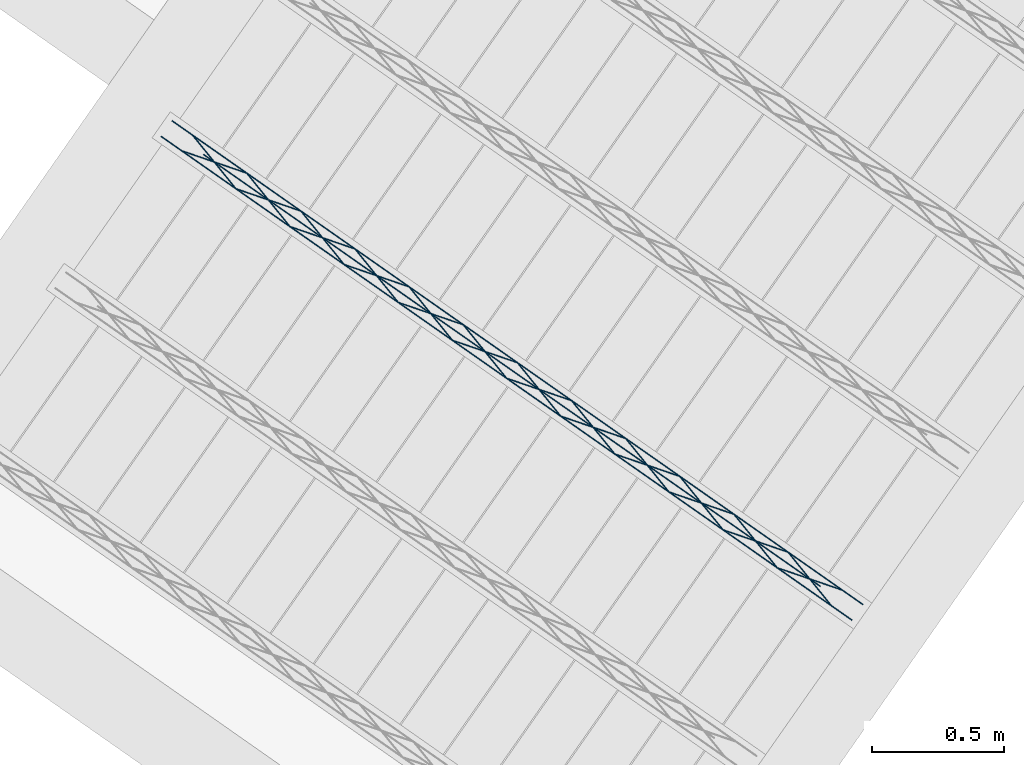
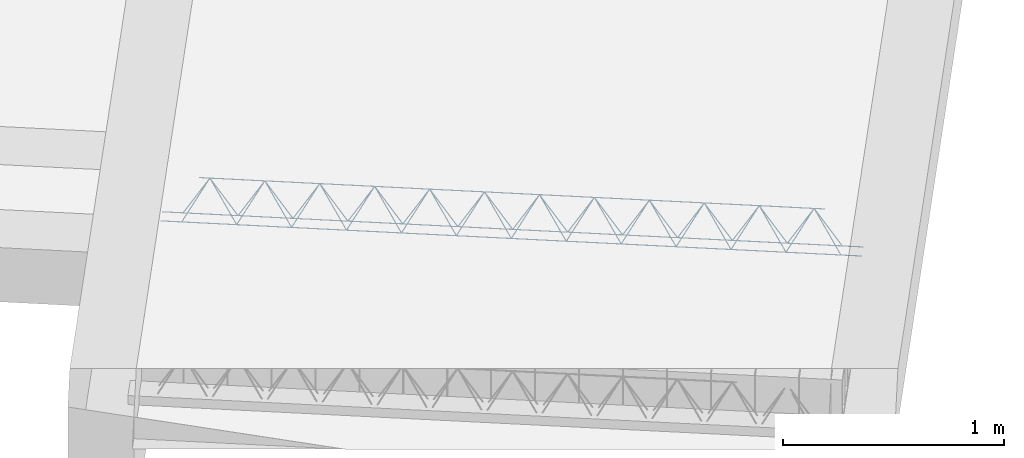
# One storey, part 5 of 46: 1 member.
"""IFC2X3 building model written with IfcOpenShell, lengths in metres."""

from ifc_helpers import new_model, entity, si_unit, converted_unit, derived_unit, direction, frame, origin, origin_2d_with_axis, place, context, subcontext, project, spatial, circle, extrude, type_object, element, save


model = new_model("IFC2X3")

# Units and contexts
model_context = context("Model", 3, precision=1e-05, world=origin(), true_north=direction((6.123031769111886e-17, 1.0)))
body_context = subcontext(model_context, "Body", "Model", "MODEL_VIEW")
ifc_project = project(units=[si_unit("LENGTHUNIT", "METRE"), si_unit("AREAUNIT", "SQUARE_METRE"), si_unit("VOLUMEUNIT", "CUBIC_METRE"), converted_unit("PLANEANGLEUNIT", "DEGREE", entity("IfcPlaneAngleMeasure", 0.017453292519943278), si_unit("PLANEANGLEUNIT", "RADIAN"), dimensions=[0, 0, 0, 0, 0, 0, 0]), si_unit("MASSUNIT", "GRAM", prefix="KILO"), derived_unit("MASSDENSITYUNIT", [(si_unit("MASSUNIT", "GRAM", prefix="KILO"), 1), (si_unit("LENGTHUNIT", "METRE"), -3)]), derived_unit("IONCONCENTRATIONUNIT", [(si_unit("MASSUNIT", "GRAM", prefix="KILO"), 1), (si_unit("LENGTHUNIT", "METRE"), -3)]), derived_unit("MOMENTOFINERTIAUNIT", [(si_unit("LENGTHUNIT", "METRE"), 4)]), si_unit("TIMEUNIT", "SECOND"), si_unit("FREQUENCYUNIT", "HERTZ"), si_unit("THERMODYNAMICTEMPERATUREUNIT", "DEGREE_CELSIUS"), derived_unit("THERMALTRANSMITTANCEUNIT", [(si_unit("MASSUNIT", "GRAM", prefix="KILO"), 1), (si_unit("THERMODYNAMICTEMPERATUREUNIT", "KELVIN"), -1), (si_unit("TIMEUNIT", "SECOND"), -3)]), derived_unit("THERMALCONDUCTANCEUNIT", [(si_unit("MASSUNIT", "GRAM", prefix="KILO"), 1), (si_unit("THERMODYNAMICTEMPERATUREUNIT", "KELVIN"), -1), (si_unit("TIMEUNIT", "SECOND"), -3), (si_unit("LENGTHUNIT", "METRE"), 1)]), derived_unit("VOLUMETRICFLOWRATEUNIT", [(si_unit("LENGTHUNIT", "METRE", prefix="DECI"), 3), (si_unit("TIMEUNIT", "SECOND"), -1)]), derived_unit("MASSFLOWRATEUNIT", [(si_unit("MASSUNIT", "GRAM", prefix="KILO"), 1), (si_unit("TIMEUNIT", "SECOND"), -1)]), derived_unit("ROTATIONALFREQUENCYUNIT", [(si_unit("TIMEUNIT", "SECOND"), -1)]), si_unit("ELECTRICCURRENTUNIT", "AMPERE"), si_unit("ELECTRICVOLTAGEUNIT", "VOLT"), si_unit("POWERUNIT", "WATT"), si_unit("FORCEUNIT", "NEWTON", prefix="KILO"), si_unit("ILLUMINANCEUNIT", "LUX"), si_unit("LUMINOUSFLUXUNIT", "LUMEN"), si_unit("LUMINOUSINTENSITYUNIT", "CANDELA"), si_unit("ENERGYUNIT", "JOULE"), derived_unit("USERDEFINED", [(si_unit("MASSUNIT", "GRAM", prefix="KILO"), -1), (si_unit("LENGTHUNIT", "METRE"), -2), (si_unit("TIMEUNIT", "SECOND"), 3), (si_unit("LUMINOUSFLUXUNIT", "LUMEN"), 1)]), derived_unit("USERDEFINED", [(si_unit("MASSUNIT", "GRAM", prefix="KILO"), 1), (si_unit("TIMEUNIT", "SECOND"), -3), (si_unit("LENGTHUNIT", "METRE"), 3), (si_unit("ELECTRICCURRENTUNIT", "AMPERE"), -2)]), derived_unit("SOUNDPOWERUNIT", [(si_unit("MASSUNIT", "GRAM", prefix="KILO"), 1), (si_unit("TIMEUNIT", "SECOND"), -3), (si_unit("LENGTHUNIT", "METRE"), 2)]), derived_unit("SOUNDPRESSUREUNIT", [(si_unit("MASSUNIT", "GRAM", prefix="KILO"), 1), (si_unit("LENGTHUNIT", "METRE"), -1), (si_unit("TIMEUNIT", "SECOND"), -2)]), derived_unit("LINEARVELOCITYUNIT", [(si_unit("LENGTHUNIT", "METRE"), 1), (si_unit("TIMEUNIT", "SECOND"), -1)]), si_unit("PRESSUREUNIT", "PASCAL"), derived_unit("USERDEFINED", [(si_unit("MASSUNIT", "GRAM", prefix="KILO"), 1), (si_unit("LENGTHUNIT", "METRE"), -2), (si_unit("TIMEUNIT", "SECOND"), -2)]), derived_unit("LINEARFORCEUNIT", [(si_unit("MASSUNIT", "GRAM", prefix="KILO"), 1), (si_unit("TIMEUNIT", "SECOND"), -2)]), derived_unit("PLANARFORCEUNIT", [(si_unit("MASSUNIT", "GRAM", prefix="KILO"), 1), (si_unit("LENGTHUNIT", "METRE"), -1), (si_unit("TIMEUNIT", "SECOND"), -2)]), derived_unit("SPECIFICHEATCAPACITYUNIT", [(si_unit("THERMODYNAMICTEMPERATUREUNIT", "KELVIN"), -1), (si_unit("LENGTHUNIT", "METRE"), 2), (si_unit("TIMEUNIT", "SECOND"), -2)]), derived_unit("HEATFLUXDENSITYUNIT", [(si_unit("MASSUNIT", "GRAM", prefix="KILO"), 1), (si_unit("TIMEUNIT", "SECOND"), -3)]), derived_unit("HEATINGVALUEUNIT", [(si_unit("LENGTHUNIT", "METRE"), 2), (si_unit("TIMEUNIT", "SECOND"), -2)]), derived_unit("VAPORPERMEABILITYUNIT", [(si_unit("LENGTHUNIT", "METRE"), -1), (si_unit("TIMEUNIT", "SECOND"), 1)]), derived_unit("DYNAMICVISCOSITYUNIT", [(si_unit("MASSUNIT", "GRAM", prefix="KILO"), 1), (si_unit("TIMEUNIT", "SECOND"), -1), (si_unit("LENGTHUNIT", "METRE"), -1)]), derived_unit("THERMALEXPANSIONCOEFFICIENTUNIT", [(si_unit("THERMODYNAMICTEMPERATUREUNIT", "KELVIN"), -1)]), derived_unit("MODULUSOFELASTICITYUNIT", [(si_unit("MASSUNIT", "GRAM", prefix="KILO"), 1), (si_unit("LENGTHUNIT", "METRE"), -1), (si_unit("TIMEUNIT", "SECOND"), -2)]), derived_unit("ISOTHERMALMOISTURECAPACITYUNIT", [(si_unit("MASSUNIT", "GRAM", prefix="KILO"), -1), (si_unit("LENGTHUNIT", "METRE"), 3)]), derived_unit("MOISTUREDIFFUSIVITYUNIT", [(si_unit("TIMEUNIT", "SECOND"), -1), (si_unit("LENGTHUNIT", "METRE"), 2)]), derived_unit("MASSPERLENGTHUNIT", [(si_unit("MASSUNIT", "GRAM", prefix="KILO"), 1), (si_unit("LENGTHUNIT", "METRE"), -1)]), derived_unit("THERMALRESISTANCEUNIT", [(si_unit("MASSUNIT", "GRAM", prefix="KILO"), -1), (si_unit("TIMEUNIT", "SECOND"), 3), (si_unit("THERMODYNAMICTEMPERATUREUNIT", "KELVIN"), 1)]), derived_unit("ACCELERATIONUNIT", [(si_unit("LENGTHUNIT", "METRE"), 1), (si_unit("TIMEUNIT", "SECOND"), -2)]), derived_unit("ANGULARVELOCITYUNIT", [(si_unit("TIMEUNIT", "SECOND"), -1), (si_unit("PLANEANGLEUNIT", "RADIAN"), 1)]), derived_unit("LINEARSTIFFNESSUNIT", [(si_unit("MASSUNIT", "GRAM", prefix="KILO"), 1), (si_unit("TIMEUNIT", "SECOND"), -2)]), derived_unit("WARPINGCONSTANTUNIT", [(si_unit("LENGTHUNIT", "METRE"), 6)]), derived_unit("LINEARMOMENTUNIT", [(si_unit("MASSUNIT", "GRAM", prefix="KILO"), 1), (si_unit("LENGTHUNIT", "METRE"), 1), (si_unit("TIMEUNIT", "SECOND"), -2)]), derived_unit("TORQUEUNIT", [(si_unit("MASSUNIT", "GRAM", prefix="KILO"), 1), (si_unit("LENGTHUNIT", "METRE"), 2), (si_unit("TIMEUNIT", "SECOND"), -2)])], contexts=[model_context])

# Site, building, storey
site_placement = place(None, origin())
site = spatial("IfcSite", under=ifc_project, at=site_placement, Name="Default", CompositionType="ELEMENT")
building_placement = place(site_placement, origin())
building = spatial("IfcBuilding", under=site, at=building_placement, CompositionType="ELEMENT")
storey_placement = place(building_placement, frame((0.0, 0.0, 99.52000000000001)))
storey = spatial("IfcBuildingStorey", under=building, at=storey_placement, Name="F1", CompositionType="ELEMENT", Elevation=99.52000000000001)

# Member
member_type = type_object("IfcMemberType", Name="Celosía (Vigueta 3 - Paño 4)", PredefinedType="NOTDEFINED")
member_placement = place(storey_placement, origin())
element("IfcMember", 1, at=member_placement, inside=storey, type_object=member_type, Name="Celosía (Vigueta 3 - Paño 4)", context=body_context, shape_type="SweptSolid", body=[
    extrude(circle(Radius=0.0025, at=origin_2d_with_axis()), frame((5.257437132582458, -2.6872420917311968, 0.22500000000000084), z_axis=(0.8191520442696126, -0.5735764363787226, 0.0), x_axis=(-0.5735764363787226, -0.8191520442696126, 0.0)), (0.0, 0.0, 1.0), 3.191999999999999),
    extrude(circle(Radius=0.0025, at=origin_2d_with_axis()), frame((7.752744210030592, -4.390527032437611, 0.4500000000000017), z_axis=(-0.8191520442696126, 0.5735764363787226, 0.0), x_axis=(-0.5735764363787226, -0.8191520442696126, 0.0)), (0.0, 0.0, 1.0), 2.8499999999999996),
    extrude(circle(Radius=0.0025, at=origin_2d_with_axis()), frame((7.793531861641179, -4.463034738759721, 0.22500000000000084), z_axis=(-0.3145304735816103, 0.389334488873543, 0.8657304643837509), x_axis=(-0.7778747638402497, -0.6284193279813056, 0.0)), (0.0, 0.0, 1.0), 0.2598961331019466),
    extrude(circle(Radius=0.0025, at=origin_2d_with_axis()), frame((7.5887438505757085, -4.319640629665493, 0.22499999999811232), z_axis=(0.47343050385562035, -0.1624017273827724, 0.8657304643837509), x_axis=(-0.3244721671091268, -0.9458952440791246, 0.0)), (0.0, 0.0, 1.0), 0.25989613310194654),
    extrude(circle(Radius=0.0025, at=origin_2d_with_axis()), frame((7.588743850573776, -4.319640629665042, 0.22500000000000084), z_axis=(-0.3145304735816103, 0.389334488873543, 0.8657304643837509), x_axis=(-0.7778747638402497, -0.6284193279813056, 0.0)), (0.0, 0.0, 1.0), 0.2598961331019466),
    extrude(circle(Radius=0.0025, at=origin_2d_with_axis()), frame((7.383955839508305, -4.176246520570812, 0.22499999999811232), z_axis=(0.47343050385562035, -0.1624017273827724, 0.8657304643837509), x_axis=(-0.3244721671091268, -0.9458952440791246, 0.0)), (0.0, 0.0, 1.0), 0.25989613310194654),
    extrude(circle(Radius=0.0025, at=origin_2d_with_axis()), frame((7.383955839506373, -4.17624652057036, 0.22500000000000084), z_axis=(-0.3145304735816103, 0.389334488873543, 0.8657304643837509), x_axis=(-0.7778747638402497, -0.6284193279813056, 0.0)), (0.0, 0.0, 1.0), 0.2598961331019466),
    extrude(circle(Radius=0.0025, at=origin_2d_with_axis()), frame((7.179167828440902, -4.0328524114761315, 0.22499999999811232), z_axis=(0.47343050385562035, -0.1624017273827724, 0.8657304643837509), x_axis=(-0.3244721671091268, -0.9458952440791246, 0.0)), (0.0, 0.0, 1.0), 0.25989613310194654),
    extrude(circle(Radius=0.0025, at=origin_2d_with_axis()), frame((7.179167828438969, -4.032852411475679, 0.22500000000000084), z_axis=(-0.3145304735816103, 0.389334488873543, 0.8657304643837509), x_axis=(-0.7778747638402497, -0.6284193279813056, 0.0)), (0.0, 0.0, 1.0), 0.2598961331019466),
    extrude(circle(Radius=0.0025, at=origin_2d_with_axis()), frame((6.9743798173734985, -3.889458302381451, 0.22499999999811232), z_axis=(0.47343050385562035, -0.1624017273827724, 0.8657304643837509), x_axis=(-0.3244721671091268, -0.9458952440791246, 0.0)), (0.0, 0.0, 1.0), 0.25989613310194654),
    extrude(circle(Radius=0.0025, at=origin_2d_with_axis()), frame((6.974379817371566, -3.8894583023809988, 0.22500000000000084), z_axis=(-0.3145304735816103, 0.389334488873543, 0.8657304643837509), x_axis=(-0.7778747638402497, -0.6284193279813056, 0.0)), (0.0, 0.0, 1.0), 0.2598961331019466),
    extrude(circle(Radius=0.0025, at=origin_2d_with_axis()), frame((6.769591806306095, -3.74606419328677, 0.22499999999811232), z_axis=(0.47343050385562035, -0.1624017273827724, 0.8657304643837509), x_axis=(-0.3244721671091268, -0.9458952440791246, 0.0)), (0.0, 0.0, 1.0), 0.25989613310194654),
    extrude(circle(Radius=0.0025, at=origin_2d_with_axis()), frame((6.769591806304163, -3.7460641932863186, 0.22500000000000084), z_axis=(-0.3145304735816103, 0.389334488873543, 0.8657304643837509), x_axis=(-0.7778747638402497, -0.6284193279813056, 0.0)), (0.0, 0.0, 1.0), 0.2598961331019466),
    extrude(circle(Radius=0.0025, at=origin_2d_with_axis()), frame((6.564803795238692, -3.6026700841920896, 0.22499999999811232), z_axis=(0.47343050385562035, -0.1624017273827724, 0.8657304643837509), x_axis=(-0.3244721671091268, -0.9458952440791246, 0.0)), (0.0, 0.0, 1.0), 0.25989613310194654),
    extrude(circle(Radius=0.0025, at=origin_2d_with_axis()), frame((6.56480379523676, -3.6026700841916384, 0.22500000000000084), z_axis=(-0.3145304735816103, 0.389334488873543, 0.8657304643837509), x_axis=(-0.7778747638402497, -0.6284193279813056, 0.0)), (0.0, 0.0, 1.0), 0.2598961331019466),
    extrude(circle(Radius=0.0025, at=origin_2d_with_axis()), frame((6.360015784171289, -3.459275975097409, 0.22499999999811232), z_axis=(0.47343050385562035, -0.1624017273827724, 0.8657304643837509), x_axis=(-0.3244721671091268, -0.9458952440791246, 0.0)), (0.0, 0.0, 1.0), 0.25989613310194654),
    extrude(circle(Radius=0.0025, at=origin_2d_with_axis()), frame((6.360015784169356, -3.4592759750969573, 0.22500000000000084), z_axis=(-0.3145304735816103, 0.389334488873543, 0.8657304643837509), x_axis=(-0.7778747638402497, -0.6284193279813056, 0.0)), (0.0, 0.0, 1.0), 0.2598961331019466),
    extrude(circle(Radius=0.0025, at=origin_2d_with_axis()), frame((6.155227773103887, -3.315881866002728, 0.22499999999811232), z_axis=(0.47343050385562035, -0.1624017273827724, 0.8657304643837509), x_axis=(-0.3244721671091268, -0.9458952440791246, 0.0)), (0.0, 0.0, 1.0), 0.25989613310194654),
    extrude(circle(Radius=0.0025, at=origin_2d_with_axis()), frame((6.155227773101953, -3.3158818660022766, 0.22500000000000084), z_axis=(-0.3145304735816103, 0.389334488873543, 0.8657304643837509), x_axis=(-0.7778747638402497, -0.6284193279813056, 0.0)), (0.0, 0.0, 1.0), 0.2598961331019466),
    extrude(circle(Radius=0.0025, at=origin_2d_with_axis()), frame((5.950439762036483, -3.1724877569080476, 0.22499999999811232), z_axis=(0.47343050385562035, -0.1624017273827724, 0.8657304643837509), x_axis=(-0.3244721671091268, -0.9458952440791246, 0.0)), (0.0, 0.0, 1.0), 0.25989613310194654),
    extrude(circle(Radius=0.0025, at=origin_2d_with_axis()), frame((5.95043976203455, -3.172487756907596, 0.22500000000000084), z_axis=(-0.3145304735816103, 0.389334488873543, 0.8657304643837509), x_axis=(-0.7778747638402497, -0.6284193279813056, 0.0)), (0.0, 0.0, 1.0), 0.2598961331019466),
    extrude(circle(Radius=0.0025, at=origin_2d_with_axis()), frame((5.745651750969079, -3.0290936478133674, 0.22499999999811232), z_axis=(0.47343050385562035, -0.1624017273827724, 0.8657304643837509), x_axis=(-0.3244721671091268, -0.9458952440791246, 0.0)), (0.0, 0.0, 1.0), 0.25989613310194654),
    extrude(circle(Radius=0.0025, at=origin_2d_with_axis()), frame((5.745651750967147, -3.0290936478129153, 0.22500000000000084), z_axis=(-0.3145304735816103, 0.389334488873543, 0.8657304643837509), x_axis=(-0.7778747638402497, -0.6284193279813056, 0.0)), (0.0, 0.0, 1.0), 0.2598961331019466),
    extrude(circle(Radius=0.0025, at=origin_2d_with_axis()), frame((5.540863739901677, -2.8856995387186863, 0.22499999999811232), z_axis=(0.47343050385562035, -0.1624017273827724, 0.8657304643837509), x_axis=(-0.3244721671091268, -0.9458952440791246, 0.0)), (0.0, 0.0, 1.0), 0.25989613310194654),
    extrude(circle(Radius=0.0025, at=origin_2d_with_axis()), frame((5.540863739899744, -2.8856995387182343, 0.22500000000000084), z_axis=(-0.3145304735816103, 0.389334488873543, 0.8657304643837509), x_axis=(-0.7778747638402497, -0.6284193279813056, 0.0)), (0.0, 0.0, 1.0), 0.2598961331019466),
    extrude(circle(Radius=0.0025, at=origin_2d_with_axis()), frame((5.336075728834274, -2.7423054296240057, 0.22499999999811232), z_axis=(0.47343050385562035, -0.1624017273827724, 0.8657304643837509), x_axis=(-0.3244721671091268, -0.9458952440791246, 0.0)), (0.0, 0.0, 1.0), 0.25989613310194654),
    extrude(circle(Radius=0.0025, at=origin_2d_with_axis()), frame((5.298734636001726, -2.628263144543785, 0.22500000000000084), z_axis=(0.8191520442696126, -0.5735764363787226, 0.0), x_axis=(-0.5735764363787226, -0.8191520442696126, 0.0)), (0.0, 0.0, 1.0), 3.191999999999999),
    extrude(circle(Radius=0.0025, at=origin_2d_with_axis()), frame((7.834829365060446, -4.4040557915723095, 0.22500000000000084), z_axis=(-0.47343050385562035, 0.1624017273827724, 0.8657304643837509), x_axis=(-0.3244721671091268, -0.9458952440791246, 0.0)), (0.0, 0.0, 1.0), 0.25989613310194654),
    extrude(circle(Radius=0.0025, at=origin_2d_with_axis()), frame((7.630041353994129, -4.260661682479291, 0.22499999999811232), z_axis=(0.3145304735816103, -0.389334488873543, 0.8657304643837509), x_axis=(-0.7778747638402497, -0.6284193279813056, 0.0)), (0.0, 0.0, 1.0), 0.2598961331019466),
    extrude(circle(Radius=0.0025, at=origin_2d_with_axis()), frame((7.630041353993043, -4.26066168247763, 0.22500000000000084), z_axis=(-0.47343050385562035, 0.1624017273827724, 0.8657304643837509), x_axis=(-0.3244721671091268, -0.9458952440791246, 0.0)), (0.0, 0.0, 1.0), 0.25989613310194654),
    extrude(circle(Radius=0.0025, at=origin_2d_with_axis()), frame((7.425253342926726, -4.11726757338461, 0.22499999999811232), z_axis=(0.3145304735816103, -0.389334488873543, 0.8657304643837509), x_axis=(-0.7778747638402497, -0.6284193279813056, 0.0)), (0.0, 0.0, 1.0), 0.2598961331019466),
    extrude(circle(Radius=0.0025, at=origin_2d_with_axis()), frame((7.42525334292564, -4.117267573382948, 0.22500000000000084), z_axis=(-0.47343050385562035, 0.1624017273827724, 0.8657304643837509), x_axis=(-0.3244721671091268, -0.9458952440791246, 0.0)), (0.0, 0.0, 1.0), 0.25989613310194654),
    extrude(circle(Radius=0.0025, at=origin_2d_with_axis()), frame((7.220465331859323, -3.97387346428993, 0.22499999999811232), z_axis=(0.3145304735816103, -0.389334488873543, 0.8657304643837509), x_axis=(-0.7778747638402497, -0.6284193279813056, 0.0)), (0.0, 0.0, 1.0), 0.2598961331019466),
    extrude(circle(Radius=0.0025, at=origin_2d_with_axis()), frame((7.220465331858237, -3.9738734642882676, 0.22500000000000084), z_axis=(-0.47343050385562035, 0.1624017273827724, 0.8657304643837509), x_axis=(-0.3244721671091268, -0.9458952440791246, 0.0)), (0.0, 0.0, 1.0), 0.25989613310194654),
    extrude(circle(Radius=0.0025, at=origin_2d_with_axis()), frame((7.015677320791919, -3.830479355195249, 0.22499999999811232), z_axis=(0.3145304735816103, -0.389334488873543, 0.8657304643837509), x_axis=(-0.7778747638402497, -0.6284193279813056, 0.0)), (0.0, 0.0, 1.0), 0.2598961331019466),
    extrude(circle(Radius=0.0025, at=origin_2d_with_axis()), frame((7.015677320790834, -3.830479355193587, 0.22500000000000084), z_axis=(-0.47343050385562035, 0.1624017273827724, 0.8657304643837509), x_axis=(-0.3244721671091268, -0.9458952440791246, 0.0)), (0.0, 0.0, 1.0), 0.25989613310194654),
    extrude(circle(Radius=0.0025, at=origin_2d_with_axis()), frame((6.810889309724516, -3.687085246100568, 0.22499999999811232), z_axis=(0.3145304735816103, -0.389334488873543, 0.8657304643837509), x_axis=(-0.7778747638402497, -0.6284193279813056, 0.0)), (0.0, 0.0, 1.0), 0.2598961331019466),
    extrude(circle(Radius=0.0025, at=origin_2d_with_axis()), frame((6.81088930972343, -3.6870852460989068, 0.22500000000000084), z_axis=(-0.47343050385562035, 0.1624017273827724, 0.8657304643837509), x_axis=(-0.3244721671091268, -0.9458952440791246, 0.0)), (0.0, 0.0, 1.0), 0.25989613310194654),
    extrude(circle(Radius=0.0025, at=origin_2d_with_axis()), frame((6.606101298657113, -3.543691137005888, 0.22499999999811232), z_axis=(0.3145304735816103, -0.389334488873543, 0.8657304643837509), x_axis=(-0.7778747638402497, -0.6284193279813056, 0.0)), (0.0, 0.0, 1.0), 0.2598961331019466),
    extrude(circle(Radius=0.0025, at=origin_2d_with_axis()), frame((6.606101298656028, -3.543691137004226, 0.22500000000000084), z_axis=(-0.47343050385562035, 0.1624017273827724, 0.8657304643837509), x_axis=(-0.3244721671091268, -0.9458952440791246, 0.0)), (0.0, 0.0, 1.0), 0.25989613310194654),
    extrude(circle(Radius=0.0025, at=origin_2d_with_axis()), frame((6.40131328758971, -3.4002970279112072, 0.22499999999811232), z_axis=(0.3145304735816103, -0.389334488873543, 0.8657304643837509), x_axis=(-0.7778747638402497, -0.6284193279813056, 0.0)), (0.0, 0.0, 1.0), 0.2598961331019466),
    extrude(circle(Radius=0.0025, at=origin_2d_with_axis()), frame((6.401313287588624, -3.4002970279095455, 0.22500000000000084), z_axis=(-0.47343050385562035, 0.1624017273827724, 0.8657304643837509), x_axis=(-0.3244721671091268, -0.9458952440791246, 0.0)), (0.0, 0.0, 1.0), 0.25989613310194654),
    extrude(circle(Radius=0.0025, at=origin_2d_with_axis()), frame((6.196525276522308, -3.256902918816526, 0.22499999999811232), z_axis=(0.3145304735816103, -0.389334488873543, 0.8657304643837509), x_axis=(-0.7778747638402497, -0.6284193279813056, 0.0)), (0.0, 0.0, 1.0), 0.2598961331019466),
    extrude(circle(Radius=0.0025, at=origin_2d_with_axis()), frame((6.196525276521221, -3.2569029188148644, 0.22500000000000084), z_axis=(-0.47343050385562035, 0.1624017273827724, 0.8657304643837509), x_axis=(-0.3244721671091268, -0.9458952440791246, 0.0)), (0.0, 0.0, 1.0), 0.25989613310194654),
    extrude(circle(Radius=0.0025, at=origin_2d_with_axis()), frame((5.991737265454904, -3.113508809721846, 0.22499999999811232), z_axis=(0.3145304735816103, -0.389334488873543, 0.8657304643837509), x_axis=(-0.7778747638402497, -0.6284193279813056, 0.0)), (0.0, 0.0, 1.0), 0.2598961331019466),
    extrude(circle(Radius=0.0025, at=origin_2d_with_axis()), frame((5.991737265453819, -3.113508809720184, 0.22500000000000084), z_axis=(-0.47343050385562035, 0.1624017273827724, 0.8657304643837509), x_axis=(-0.3244721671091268, -0.9458952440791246, 0.0)), (0.0, 0.0, 1.0), 0.25989613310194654),
    extrude(circle(Radius=0.0025, at=origin_2d_with_axis()), frame((5.7869492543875, -2.9701147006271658, 0.22499999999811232), z_axis=(0.3145304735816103, -0.389334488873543, 0.8657304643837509), x_axis=(-0.7778747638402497, -0.6284193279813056, 0.0)), (0.0, 0.0, 1.0), 0.2598961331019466),
    extrude(circle(Radius=0.0025, at=origin_2d_with_axis()), frame((5.786949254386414, -2.9701147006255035, 0.22500000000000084), z_axis=(-0.47343050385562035, 0.1624017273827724, 0.8657304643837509), x_axis=(-0.3244721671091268, -0.9458952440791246, 0.0)), (0.0, 0.0, 1.0), 0.25989613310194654),
    extrude(circle(Radius=0.0025, at=origin_2d_with_axis()), frame((5.5821612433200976, -2.8267205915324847, 0.22499999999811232), z_axis=(0.3145304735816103, -0.389334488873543, 0.8657304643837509), x_axis=(-0.7778747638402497, -0.6284193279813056, 0.0)), (0.0, 0.0, 1.0), 0.2598961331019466),
    extrude(circle(Radius=0.0025, at=origin_2d_with_axis()), frame((5.582161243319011, -2.8267205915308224, 0.22500000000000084), z_axis=(-0.47343050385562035, 0.1624017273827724, 0.8657304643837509), x_axis=(-0.3244721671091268, -0.9458952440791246, 0.0)), (0.0, 0.0, 1.0), 0.25989613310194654),
    extrude(circle(Radius=0.0025, at=origin_2d_with_axis()), frame((5.377373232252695, -2.683326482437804, 0.22499999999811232), z_axis=(0.3145304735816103, -0.389334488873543, 0.8657304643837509), x_axis=(-0.7778747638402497, -0.6284193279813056, 0.0)), (0.0, 0.0, 1.0), 0.2598961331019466),
])

save(model, "model.ifc")
